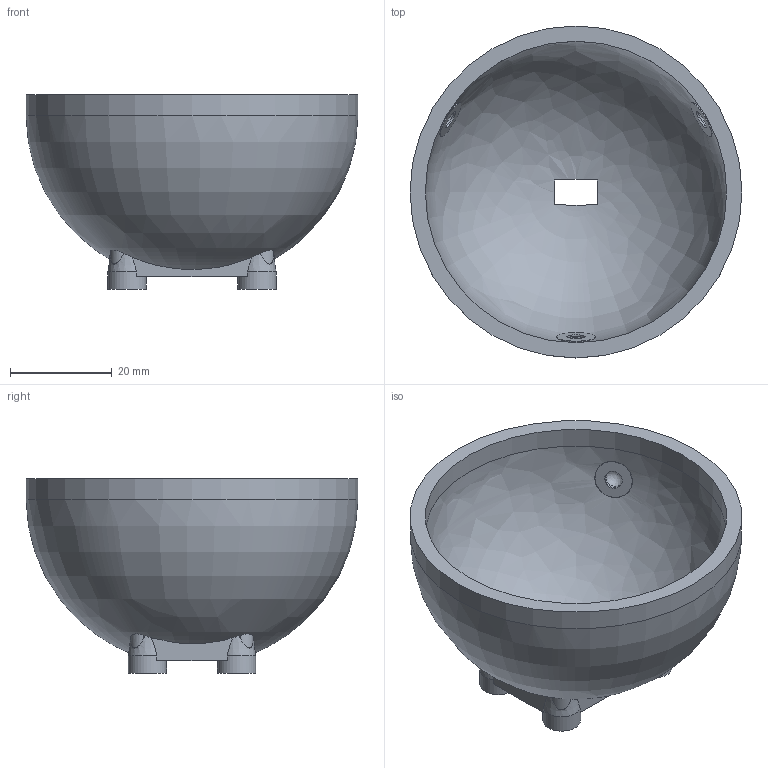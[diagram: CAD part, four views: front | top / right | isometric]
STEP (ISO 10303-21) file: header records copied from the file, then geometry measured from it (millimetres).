
FILE_DESCRIPTION(('Open CASCADE Model'),'2;1');
FILE_NAME('Open CASCADE Shape Model','2026-05-31T19:43:50',('Author'),( 'Open CASCADE'),'Open CASCADE STEP processor 7.6','Open CASCADE 7.6' ,'Unknown');
FILE_SCHEMA(('AP242_MANAGED_MODEL_BASED_3D_ENGINEERING_MIM_LF. {1 0 10303 442 1 1 4 }'));
Length unit declared in the file: millimetre
Products named in the file (1): Open CASCADE STEP translator 7.6 9
Bounding box: 65.15 x 65.15 x 38.17 mm (x, y, z)
Volume: 21502.2 mm3; surface area: 15213.8 mm2
Topology: 1 solids, 1 shells, 73 faces, 175 edges, 115 vertices
Faces by surface type: plane 30, cylinder 27, revolution 8, bspline 4, cone 4
Full cylindrical faces by diameter (mm): 3.5 x4, 3.57 x3, 3.572 x3, 7.5 x4, 7.57 x3, 59.15 x1, 65.15 x1
Entity records: 9386 total; most frequent: CARTESIAN_POINT 6037, DIRECTION 571, ORIENTED_EDGE 344, PCURVE 344, DEFINITIONAL_REPRESENTATION 344, LINE 251, VECTOR 251, EDGE_CURVE 172
